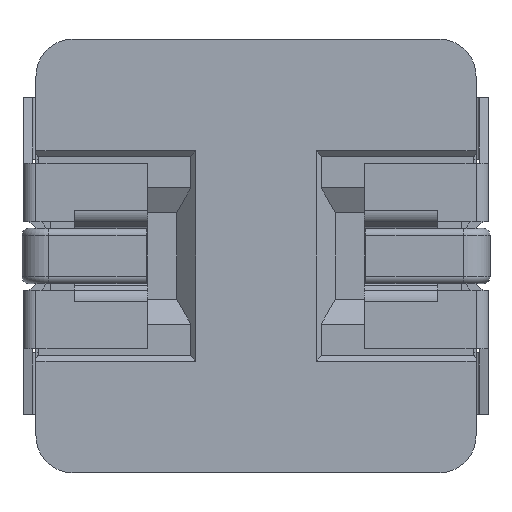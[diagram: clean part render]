
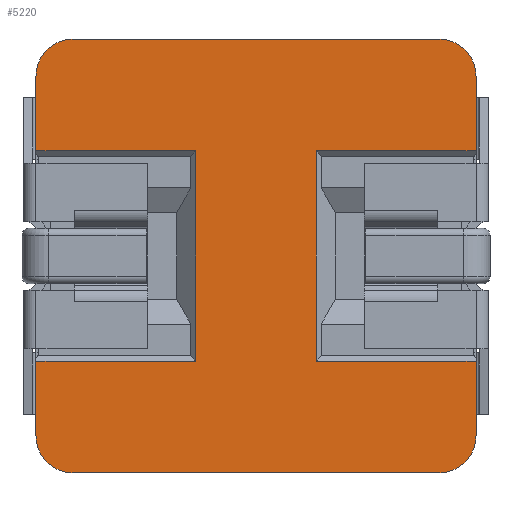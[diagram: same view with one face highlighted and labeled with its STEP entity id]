
A CAD part, front view. The second image highlights one B-rep face of the part: STEP entity #5220.
In plain terms, the highlighted planar face has unit normal (0, -1, 0).
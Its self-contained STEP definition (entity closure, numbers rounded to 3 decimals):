
#101 = CIRCLE ( 'NONE', #5334, 0.6 ) ;
#160 = CARTESIAN_POINT ( 'NONE',  ( 3.55, -1.56, 2.9 ) ) ;
#209 = EDGE_CURVE ( 'NONE', #1404, #7811, #2637, .T. ) ;
#294 = CARTESIAN_POINT ( 'NONE',  ( 2.95, -1.56, -3.5 ) ) ;
#298 = EDGE_CURVE ( 'NONE', #4716, #9741, #11146, .T. ) ;
#299 = DIRECTION ( 'NONE',  ( 0., 0., 1. ) ) ;
#533 = AXIS2_PLACEMENT_3D ( 'NONE', #10558, #2780, #8513 ) ;
#598 = DIRECTION ( 'NONE',  ( 0., 0., -1. ) ) ;
#904 = CARTESIAN_POINT ( 'NONE',  ( 2.95, -1.56, 3.5 ) ) ;
#909 = ORIENTED_EDGE ( 'NONE', *, *, #10888, .F. ) ;
#1110 = ORIENTED_EDGE ( 'NONE', *, *, #209, .F. ) ;
#1404 = VERTEX_POINT ( 'NONE', #8892 ) ;
#1409 = CARTESIAN_POINT ( 'NONE',  ( -3.55, -1.56, 2.9 ) ) ;
#1462 = VECTOR ( 'NONE', #7818, 1000. ) ;
#1566 = ORIENTED_EDGE ( 'NONE', *, *, #11360, .T. ) ;
#1688 = AXIS2_PLACEMENT_3D ( 'NONE', #1689, #8319, #2628 ) ;
#1689 = CARTESIAN_POINT ( 'NONE',  ( -2.95, -1.56, 2.9 ) ) ;
#1934 = VERTEX_POINT ( 'NONE', #6850 ) ;
#1975 = EDGE_CURVE ( 'NONE', #2596, #8257, #101, .T. ) ;
#1999 = VERTEX_POINT ( 'NONE', #5318 ) ;
#2169 = CARTESIAN_POINT ( 'NONE',  ( 2.95, -1.56, -3.5 ) ) ;
#2216 = VECTOR ( 'NONE', #11247, 1000. ) ;
#2335 = DIRECTION ( 'NONE',  ( 0., 1., 0. ) ) ;
#2389 = DIRECTION ( 'NONE',  ( 0., 0., 1. ) ) ;
#2517 = CIRCLE ( 'NONE', #533, 0.6 ) ;
#2539 = DIRECTION ( 'NONE',  ( 1., 0., 0. ) ) ;
#2574 = DIRECTION ( 'NONE',  ( 0., 0., 1. ) ) ;
#2596 = VERTEX_POINT ( 'NONE', #5653 ) ;
#2628 = DIRECTION ( 'NONE',  ( 0., 0., -1. ) ) ;
#2637 = CIRCLE ( 'NONE', #6655, 0.6 ) ;
#2702 = VECTOR ( 'NONE', #10916, 1000. ) ;
#2780 = DIRECTION ( 'NONE',  ( 0., 1., 0. ) ) ;
#2853 = DIRECTION ( 'NONE',  ( 0., 1., 0. ) ) ;
#2994 = LINE ( 'NONE', #10453, #11306 ) ;
#3279 = ORIENTED_EDGE ( 'NONE', *, *, #5446, .F. ) ;
#3359 = CARTESIAN_POINT ( 'NONE',  ( 3.55, -1.56, 2.9 ) ) ;
#3704 = LINE ( 'NONE', #7387, #2216 ) ;
#3723 = VERTEX_POINT ( 'NONE', #10384 ) ;
#3833 = DIRECTION ( 'NONE',  ( -1., 0., 0. ) ) ;
#3870 = DIRECTION ( 'NONE',  ( 0., 0., 1. ) ) ;
#4110 = CARTESIAN_POINT ( 'NONE',  ( 1.05, -1.56, 1.695 ) ) ;
#4216 = ORIENTED_EDGE ( 'NONE', *, *, #1975, .F. ) ;
#4248 = CARTESIAN_POINT ( 'NONE',  ( -2.95, -1.56, -2.9 ) ) ;
#4265 = VERTEX_POINT ( 'NONE', #11068 ) ;
#4482 = VECTOR ( 'NONE', #2574, 1000. ) ;
#4514 = EDGE_CURVE ( 'NONE', #9270, #6556, #2994, .T. ) ;
#4522 = LINE ( 'NONE', #7301, #11925 ) ;
#4640 = CARTESIAN_POINT ( 'NONE',  ( 2.95, -1.56, 2.9 ) ) ;
#4653 = ORIENTED_EDGE ( 'NONE', *, *, #7385, .F. ) ;
#4664 = LINE ( 'NONE', #8379, #7486 ) ;
#4716 = VERTEX_POINT ( 'NONE', #10715 ) ;
#4896 = DIRECTION ( 'NONE',  ( -1., 0., 0. ) ) ;
#5011 = EDGE_CURVE ( 'NONE', #5046, #2596, #7831, .T. ) ;
#5046 = VERTEX_POINT ( 'NONE', #294 ) ;
#5100 = VERTEX_POINT ( 'NONE', #12322 ) ;
#5220 = ADVANCED_FACE ( 'NONE', ( #10298 ), #8069, .F. ) ;
#5318 = CARTESIAN_POINT ( 'NONE',  ( -2.95, -1.56, 3.5 ) ) ;
#5334 = AXIS2_PLACEMENT_3D ( 'NONE', #4248, #2335, #2389 ) ;
#5432 = CARTESIAN_POINT ( 'NONE',  ( 0.97, -1.56, -1.1 ) ) ;
#5446 = EDGE_CURVE ( 'NONE', #1934, #4716, #4522, .T. ) ;
#5649 = CARTESIAN_POINT ( 'NONE',  ( -0.97, -1.56, 2.9 ) ) ;
#5653 = CARTESIAN_POINT ( 'NONE',  ( -2.95, -1.56, -3.5 ) ) ;
#6101 = ORIENTED_EDGE ( 'NONE', *, *, #7670, .F. ) ;
#6556 = VERTEX_POINT ( 'NONE', #6614 ) ;
#6560 = AXIS2_PLACEMENT_3D ( 'NONE', #10608, #8820, #9740 ) ;
#6614 = CARTESIAN_POINT ( 'NONE',  ( -3.55, -1.56, -1.695 ) ) ;
#6655 = AXIS2_PLACEMENT_3D ( 'NONE', #4640, #2853, #3870 ) ;
#6665 = CARTESIAN_POINT ( 'NONE',  ( -3.55, -1.56, -2.9 ) ) ;
#6737 = VECTOR ( 'NONE', #8883, 1000. ) ;
#6803 = VECTOR ( 'NONE', #7456, 1000. ) ;
#6850 = CARTESIAN_POINT ( 'NONE',  ( 0.97, -1.56, -1.695 ) ) ;
#7107 = CARTESIAN_POINT ( 'NONE',  ( 0.97, -1.56, 1.695 ) ) ;
#7139 = ORIENTED_EDGE ( 'NONE', *, *, #298, .F. ) ;
#7248 = ORIENTED_EDGE ( 'NONE', *, *, #11094, .F. ) ;
#7301 = CARTESIAN_POINT ( 'NONE',  ( 1.05, -1.56, -1.695 ) ) ;
#7309 = VECTOR ( 'NONE', #299, 1000. ) ;
#7322 = VERTEX_POINT ( 'NONE', #7107 ) ;
#7385 = EDGE_CURVE ( 'NONE', #1999, #1404, #11137, .T. ) ;
#7387 = CARTESIAN_POINT ( 'NONE',  ( -3.55, -1.56, 2.9 ) ) ;
#7456 = DIRECTION ( 'NONE',  ( 1., 0., 0. ) ) ;
#7486 = VECTOR ( 'NONE', #3833, 1000. ) ;
#7518 = VECTOR ( 'NONE', #8715, 1000. ) ;
#7670 = EDGE_CURVE ( 'NONE', #4265, #5100, #3704, .T. ) ;
#7791 = ORIENTED_EDGE ( 'NONE', *, *, #4514, .T. ) ;
#7811 = VERTEX_POINT ( 'NONE', #9209 ) ;
#7818 = DIRECTION ( 'NONE',  ( 0., 0., -1. ) ) ;
#7831 = LINE ( 'NONE', #2169, #7518 ) ;
#7954 = LINE ( 'NONE', #4110, #6737 ) ;
#8069 = PLANE ( 'NONE',  #6560 ) ;
#8257 = VERTEX_POINT ( 'NONE', #6665 ) ;
#8319 = DIRECTION ( 'NONE',  ( 0., 1., 0. ) ) ;
#8345 = VERTEX_POINT ( 'NONE', #10619 ) ;
#8379 = CARTESIAN_POINT ( 'NONE',  ( -1.05, -1.56, 1.695 ) ) ;
#8513 = DIRECTION ( 'NONE',  ( 0., 0., 1. ) ) ;
#8557 = EDGE_LOOP ( 'NONE', ( #3279, #8626, #1566, #12304, #1110, #4653, #12184, #6101, #12079, #909, #7791, #7248, #4216, #9410, #10967, #7139 ) ) ;
#8626 = ORIENTED_EDGE ( 'NONE', *, *, #8745, .T. ) ;
#8631 = LINE ( 'NONE', #160, #1462 ) ;
#8715 = DIRECTION ( 'NONE',  ( -1., 0., 0. ) ) ;
#8745 = EDGE_CURVE ( 'NONE', #1934, #7322, #10110, .T. ) ;
#8820 = DIRECTION ( 'NONE',  ( 0., 1., 0. ) ) ;
#8838 = LINE ( 'NONE', #1409, #7309 ) ;
#8883 = DIRECTION ( 'NONE',  ( 1., 0., 0. ) ) ;
#8892 = CARTESIAN_POINT ( 'NONE',  ( 2.95, -1.56, 3.5 ) ) ;
#9209 = CARTESIAN_POINT ( 'NONE',  ( 3.55, -1.56, 2.9 ) ) ;
#9270 = VERTEX_POINT ( 'NONE', #9822 ) ;
#9410 = ORIENTED_EDGE ( 'NONE', *, *, #5011, .F. ) ;
#9717 = EDGE_CURVE ( 'NONE', #7811, #8345, #8631, .T. ) ;
#9740 = DIRECTION ( 'NONE',  ( 0., 0., 1. ) ) ;
#9741 = VERTEX_POINT ( 'NONE', #11865 ) ;
#9822 = CARTESIAN_POINT ( 'NONE',  ( -0.97, -1.56, -1.695 ) ) ;
#10110 = LINE ( 'NONE', #5432, #4482 ) ;
#10298 = FACE_OUTER_BOUND ( 'NONE', #8557, .T. ) ;
#10384 = CARTESIAN_POINT ( 'NONE',  ( -0.97, -1.56, 1.695 ) ) ;
#10453 = CARTESIAN_POINT ( 'NONE',  ( -1.05, -1.56, -1.695 ) ) ;
#10558 = CARTESIAN_POINT ( 'NONE',  ( 2.95, -1.56, -2.9 ) ) ;
#10608 = CARTESIAN_POINT ( 'NONE',  ( 2.95, -1.56, 2.9 ) ) ;
#10619 = CARTESIAN_POINT ( 'NONE',  ( 3.55, -1.56, 1.695 ) ) ;
#10715 = CARTESIAN_POINT ( 'NONE',  ( 3.55, -1.56, -1.695 ) ) ;
#10888 = EDGE_CURVE ( 'NONE', #9270, #3723, #11212, .T. ) ;
#10916 = DIRECTION ( 'NONE',  ( 0., 0., 1. ) ) ;
#10967 = ORIENTED_EDGE ( 'NONE', *, *, #11261, .F. ) ;
#11068 = CARTESIAN_POINT ( 'NONE',  ( -3.55, -1.56, 1.695 ) ) ;
#11094 = EDGE_CURVE ( 'NONE', #8257, #6556, #8838, .T. ) ;
#11137 = LINE ( 'NONE', #904, #6803 ) ;
#11146 = LINE ( 'NONE', #3359, #11821 ) ;
#11212 = LINE ( 'NONE', #5649, #2702 ) ;
#11247 = DIRECTION ( 'NONE',  ( 0., 0., 1. ) ) ;
#11261 = EDGE_CURVE ( 'NONE', #9741, #5046, #2517, .T. ) ;
#11272 = CIRCLE ( 'NONE', #1688, 0.6 ) ;
#11306 = VECTOR ( 'NONE', #4896, 1000. ) ;
#11360 = EDGE_CURVE ( 'NONE', #7322, #8345, #7954, .T. ) ;
#11448 = EDGE_CURVE ( 'NONE', #5100, #1999, #11272, .T. ) ;
#11563 = EDGE_CURVE ( 'NONE', #3723, #4265, #4664, .T. ) ;
#11821 = VECTOR ( 'NONE', #598, 1000. ) ;
#11865 = CARTESIAN_POINT ( 'NONE',  ( 3.55, -1.56, -2.9 ) ) ;
#11925 = VECTOR ( 'NONE', #2539, 1000. ) ;
#12079 = ORIENTED_EDGE ( 'NONE', *, *, #11563, .F. ) ;
#12184 = ORIENTED_EDGE ( 'NONE', *, *, #11448, .F. ) ;
#12304 = ORIENTED_EDGE ( 'NONE', *, *, #9717, .F. ) ;
#12322 = CARTESIAN_POINT ( 'NONE',  ( -3.55, -1.56, 2.9 ) ) ;
